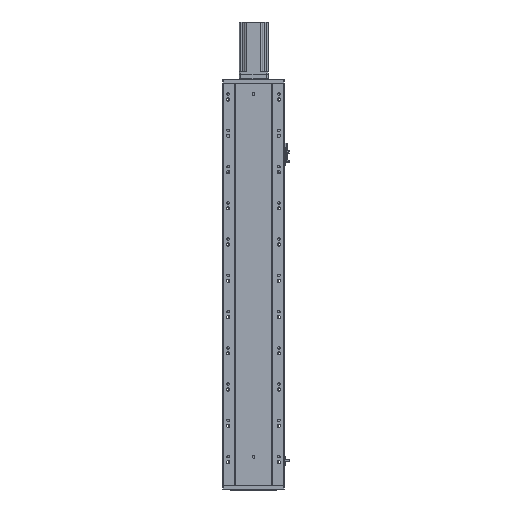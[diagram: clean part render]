
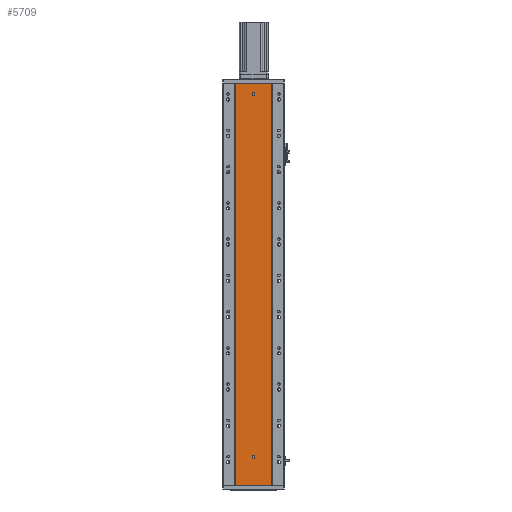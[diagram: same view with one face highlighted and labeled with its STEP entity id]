
A CAD part, front view. The second image highlights one B-rep face of the part: STEP entity #5709.
In plain terms, the highlighted planar face has unit normal (0, -1, 0).
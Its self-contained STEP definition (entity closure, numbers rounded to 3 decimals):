
#82 = FACE_OUTER_BOUND ( 'NONE', #62902, .T. ) ;
#222 = EDGE_CURVE ( 'NONE', #50070, #4104, #74648, .T. ) ;
#3704 = DIRECTION ( 'NONE',  ( 0., -1., 0. ) ) ;
#3781 = PLANE ( 'NONE',  #41307 ) ;
#4104 = VERTEX_POINT ( 'NONE', #6105 ) ;
#5667 = VERTEX_POINT ( 'NONE', #37672 ) ;
#5709 = ADVANCED_FACE ( 'NONE', ( #47152, #20890, #82 ), #3781, .F. ) ;
#6105 = CARTESIAN_POINT ( 'NONE',  ( 136.47, 79.476, 1084. ) ) ;
#6794 = CARTESIAN_POINT ( 'NONE',  ( 86.97, 79.476, 740. ) ) ;
#7233 = EDGE_CURVE ( 'NONE', #49303, #5667, #47801, .T. ) ;
#7874 = CARTESIAN_POINT ( 'NONE',  ( 86.97, 79.476, 0. ) ) ;
#8905 = EDGE_CURVE ( 'NONE', #11344, #23757, #30351, .T. ) ;
#10246 = EDGE_LOOP ( 'NONE', ( #45903, #31102 ) ) ;
#10343 = EDGE_CURVE ( 'NONE', #57476, #19304, #60998, .T. ) ;
#11344 = VERTEX_POINT ( 'NONE', #30277 ) ;
#12626 = CARTESIAN_POINT ( 'NONE',  ( 86.97, 79.476, 370. ) ) ;
#12788 = DIRECTION ( 'NONE',  ( 0., 0., -1. ) ) ;
#14934 = EDGE_CURVE ( 'NONE', #57476, #49303, #48754, .T. ) ;
#17243 = AXIS2_PLACEMENT_3D ( 'NONE', #46714, #17831, #59867 ) ;
#17831 = DIRECTION ( 'NONE',  ( 0., -1., 0. ) ) ;
#18823 = DIRECTION ( 'NONE',  ( 1., 0., 0. ) ) ;
#19304 = VERTEX_POINT ( 'NONE', #69437 ) ;
#20080 = ORIENTED_EDGE ( 'NONE', *, *, #8905, .F. ) ;
#20510 = DIRECTION ( 'NONE',  ( 0., -1., 0. ) ) ;
#20890 = FACE_BOUND ( 'NONE', #25255, .T. ) ;
#22071 = ORIENTED_EDGE ( 'NONE', *, *, #40411, .F. ) ;
#23223 = ORIENTED_EDGE ( 'NONE', *, *, #10343, .F. ) ;
#23757 = VERTEX_POINT ( 'NONE', #45891 ) ;
#24720 = ORIENTED_EDGE ( 'NONE', *, *, #7233, .T. ) ;
#25255 = EDGE_LOOP ( 'NONE', ( #41670, #20080 ) ) ;
#25688 = B_SPLINE_CURVE_WITH_KNOTS ( 'NONE', 3,
 ( #66740, #49003, #31787, #72291 ),
 .UNSPECIFIED., .F., .F.,
 ( 4, 4 ),
 ( 0., 1. ),
 .UNSPECIFIED. ) ;
#26758 = DIRECTION ( 'NONE',  ( 0., 1., 0. ) ) ;
#29428 = CARTESIAN_POINT ( 'NONE',  ( 136.47, 79.476, 1076. ) ) ;
#30277 = CARTESIAN_POINT ( 'NONE',  ( 136.47, 79.476, 84. ) ) ;
#30351 = CIRCLE ( 'NONE', #55057, 4. ) ;
#31102 = ORIENTED_EDGE ( 'NONE', *, *, #58828, .F. ) ;
#31352 = CARTESIAN_POINT ( 'NONE',  ( 86.97, 79.476, 1110. ) ) ;
#31371 = DIRECTION ( 'NONE',  ( 1., 0., 0. ) ) ;
#31787 = CARTESIAN_POINT ( 'NONE',  ( 185.97, 79.476, 370. ) ) ;
#36589 = CARTESIAN_POINT ( 'NONE',  ( 0., 79.476, 0. ) ) ;
#37672 = CARTESIAN_POINT ( 'NONE',  ( 185.97, 79.476, 0. ) ) ;
#40411 = EDGE_CURVE ( 'NONE', #19304, #5667, #25688, .T. ) ;
#41307 = AXIS2_PLACEMENT_3D ( 'NONE', #55413, #26758, #44255 ) ;
#41670 = ORIENTED_EDGE ( 'NONE', *, *, #44231, .F. ) ;
#41698 = CARTESIAN_POINT ( 'NONE',  ( 86.97, 79.476, 1110. ) ) ;
#42603 = CARTESIAN_POINT ( 'NONE',  ( 136.47, 79.476, 80. ) ) ;
#44231 = EDGE_CURVE ( 'NONE', #23757, #11344, #51137, .T. ) ;
#44255 = DIRECTION ( 'NONE',  ( 0., 0., 1. ) ) ;
#45891 = CARTESIAN_POINT ( 'NONE',  ( 136.47, 79.476, 76. ) ) ;
#45903 = ORIENTED_EDGE ( 'NONE', *, *, #222, .F. ) ;
#46714 = CARTESIAN_POINT ( 'NONE',  ( 136.47, 79.476, 1080. ) ) ;
#47152 = FACE_BOUND ( 'NONE', #10246, .T. ) ;
#47801 = LINE ( 'NONE', #36589, #67752 ) ;
#48754 = B_SPLINE_CURVE_WITH_KNOTS ( 'NONE', 3,
 ( #41698, #6794, #12626, #71092 ),
 .UNSPECIFIED., .F., .F.,
 ( 4, 4 ),
 ( 0., 1. ),
 .UNSPECIFIED. ) ;
#49003 = CARTESIAN_POINT ( 'NONE',  ( 185.97, 79.476, 740. ) ) ;
#49303 = VERTEX_POINT ( 'NONE', #7874 ) ;
#50070 = VERTEX_POINT ( 'NONE', #29428 ) ;
#50207 = AXIS2_PLACEMENT_3D ( 'NONE', #59101, #64909, #12788 ) ;
#51137 = CIRCLE ( 'NONE', #50207, 4. ) ;
#55057 = AXIS2_PLACEMENT_3D ( 'NONE', #42603, #20510, #71468 ) ;
#55413 = CARTESIAN_POINT ( 'NONE',  ( 0., 79.476, 1110. ) ) ;
#57476 = VERTEX_POINT ( 'NONE', #31352 ) ;
#58463 = ORIENTED_EDGE ( 'NONE', *, *, #14934, .T. ) ;
#58828 = EDGE_CURVE ( 'NONE', #4104, #50070, #59517, .T. ) ;
#59101 = CARTESIAN_POINT ( 'NONE',  ( 136.47, 79.476, 80. ) ) ;
#59517 = CIRCLE ( 'NONE', #71435, 4. ) ;
#59867 = DIRECTION ( 'NONE',  ( 0., 0., -1. ) ) ;
#60998 = LINE ( 'NONE', #71402, #65469 ) ;
#62902 = EDGE_LOOP ( 'NONE', ( #24720, #22071, #23223, #58463 ) ) ;
#64909 = DIRECTION ( 'NONE',  ( 0., -1., 0. ) ) ;
#65469 = VECTOR ( 'NONE', #31371, 1000. ) ;
#66740 = CARTESIAN_POINT ( 'NONE',  ( 185.97, 79.476, 1110. ) ) ;
#67254 = CARTESIAN_POINT ( 'NONE',  ( 136.47, 79.476, 1080. ) ) ;
#67752 = VECTOR ( 'NONE', #18823, 1000. ) ;
#68011 = DIRECTION ( 'NONE',  ( 0., 0., -1. ) ) ;
#69437 = CARTESIAN_POINT ( 'NONE',  ( 185.97, 79.476, 1110. ) ) ;
#71092 = CARTESIAN_POINT ( 'NONE',  ( 86.97, 79.476, 0. ) ) ;
#71402 = CARTESIAN_POINT ( 'NONE',  ( 0., 79.476, 1110. ) ) ;
#71435 = AXIS2_PLACEMENT_3D ( 'NONE', #67254, #3704, #68011 ) ;
#71468 = DIRECTION ( 'NONE',  ( 0., 0., -1. ) ) ;
#72291 = CARTESIAN_POINT ( 'NONE',  ( 185.97, 79.476, 0. ) ) ;
#74648 = CIRCLE ( 'NONE', #17243, 4. ) ;
